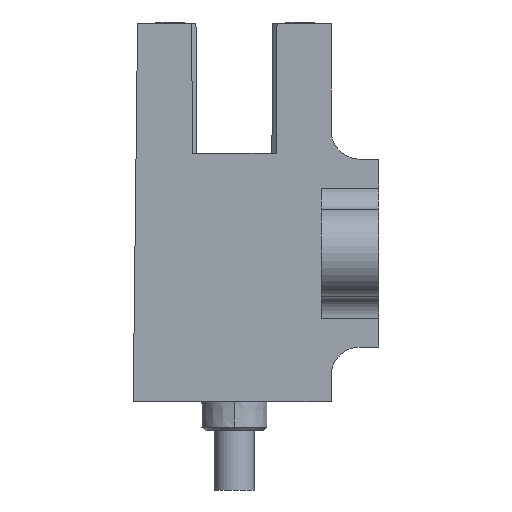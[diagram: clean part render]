
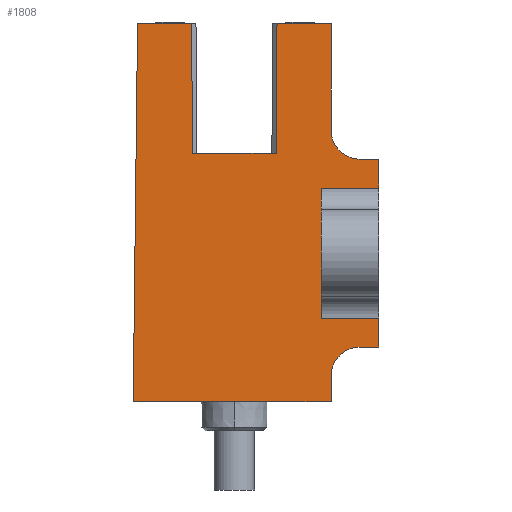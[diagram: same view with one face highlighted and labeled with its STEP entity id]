
A CAD part, front view. The second image highlights one B-rep face of the part: STEP entity #1808.
In plain terms, the highlighted planar face has unit normal (0, -1, 0).
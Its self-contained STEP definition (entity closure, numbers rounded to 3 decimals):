
#1=DIRECTION('',(0.006,0.,-1.));
#2=VECTOR('',#1,9.);
#3=CARTESIAN_POINT('',(-2.955,-3.175,26.2));
#4=LINE('',#3,#2);
#5=DIRECTION('',(1.,0.,0.));
#6=VECTOR('',#5,5.8);
#7=CARTESIAN_POINT('',(-2.9,-3.175,17.2));
#8=LINE('',#7,#6);
#9=DIRECTION('',(0.006,0.,1.));
#10=VECTOR('',#9,9.);
#11=CARTESIAN_POINT('',(2.9,-3.175,17.2));
#12=LINE('',#11,#10);
#13=CARTESIAN_POINT('',(8.7,-3.175,18.8));
#14=DIRECTION('',(0.,-1.,0.));
#15=DIRECTION('',(-1.,0.,0.));
#16=AXIS2_PLACEMENT_3D('',#13,#14,#15);
#18=DIRECTION('',(0.,0.,-1.));
#19=VECTOR('',#18,9.);
#20=CARTESIAN_POINT('',(6.,-3.175,14.8));
#21=LINE('',#20,#19);
#22=CARTESIAN_POINT('',(8.7,-3.175,1.8));
#23=DIRECTION('',(0.,-1.,0.));
#24=DIRECTION('',(0.,0.,1.));
#25=AXIS2_PLACEMENT_3D('',#22,#23,#24);
#27=DIRECTION('',(0.011,0.,1.));
#28=VECTOR('',#27,26.202);
#29=CARTESIAN_POINT('',(-7.,-3.175,0.));
#30=LINE('',#29,#28);
#47=DIRECTION('',(-1.,0.,0.));
#48=VECTOR('',#47,3.745);
#49=CARTESIAN_POINT('',(-2.955,-3.175,26.2));
#50=LINE('',#49,#48);
#157=DIRECTION('',(1.,0.,0.));
#158=VECTOR('',#157,13.7);
#159=CARTESIAN_POINT('',(-7.,-3.175,0.));
#160=LINE('',#159,#158);
#189=DIRECTION('',(0.,0.,1.));
#190=VECTOR('',#189,1.8);
#191=CARTESIAN_POINT('',(6.7,-3.175,0.));
#192=LINE('',#191,#190);
#201=DIRECTION('',(1.,0.,0.));
#202=VECTOR('',#201,1.3);
#203=CARTESIAN_POINT('',(8.7,-3.175,3.8));
#204=LINE('',#203,#202);
#237=DIRECTION('',(0.,0.,1.));
#238=VECTOR('',#237,2.);
#239=CARTESIAN_POINT('',(10.,-3.175,3.8));
#240=LINE('',#239,#238);
#269=DIRECTION('',(0.,0.,1.));
#270=VECTOR('',#269,2.);
#271=CARTESIAN_POINT('',(10.,-3.175,14.8));
#272=LINE('',#271,#270);
#457=DIRECTION('',(-1.,0.,0.));
#458=VECTOR('',#457,4.);
#459=CARTESIAN_POINT('',(10.,-3.175,5.8));
#460=LINE('',#459,#458);
#529=DIRECTION('',(1.,0.,0.));
#530=VECTOR('',#529,4.);
#531=CARTESIAN_POINT('',(6.,-3.175,14.8));
#532=LINE('',#531,#530);
#565=DIRECTION('',(-1.,0.,0.));
#566=VECTOR('',#565,1.3);
#567=CARTESIAN_POINT('',(10.,-3.175,16.8));
#568=LINE('',#567,#566);
#577=DIRECTION('',(0.,0.,1.));
#578=VECTOR('',#577,7.4);
#579=CARTESIAN_POINT('',(6.7,-3.175,18.8));
#580=LINE('',#579,#578);
#589=DIRECTION('',(-1.,0.,0.));
#590=VECTOR('',#589,3.745);
#591=CARTESIAN_POINT('',(6.7,-3.175,26.2));
#592=LINE('',#591,#590);
#1333=CARTESIAN_POINT('',(-2.955,-3.175,26.2));
#1334=CARTESIAN_POINT('',(-2.9,-3.175,17.2));
#1335=VERTEX_POINT('',#1333);
#1336=VERTEX_POINT('',#1334);
#1337=CARTESIAN_POINT('',(2.9,-3.175,17.2));
#1338=VERTEX_POINT('',#1337);
#1339=CARTESIAN_POINT('',(2.955,-3.175,26.2));
#1340=VERTEX_POINT('',#1339);
#1341=CARTESIAN_POINT('',(6.7,-3.175,26.2));
#1342=VERTEX_POINT('',#1341);
#1343=CARTESIAN_POINT('',(6.7,-3.175,18.8));
#1344=VERTEX_POINT('',#1343);
#1345=CARTESIAN_POINT('',(8.7,-3.175,16.8));
#1346=VERTEX_POINT('',#1345);
#1347=CARTESIAN_POINT('',(10.,-3.175,16.8));
#1348=VERTEX_POINT('',#1347);
#1349=CARTESIAN_POINT('',(10.,-3.175,14.8));
#1350=VERTEX_POINT('',#1349);
#1351=CARTESIAN_POINT('',(6.,-3.175,14.8));
#1352=VERTEX_POINT('',#1351);
#1353=CARTESIAN_POINT('',(6.,-3.175,5.8));
#1354=VERTEX_POINT('',#1353);
#1355=CARTESIAN_POINT('',(10.,-3.175,5.8));
#1356=VERTEX_POINT('',#1355);
#1357=CARTESIAN_POINT('',(10.,-3.175,3.8));
#1358=VERTEX_POINT('',#1357);
#1359=CARTESIAN_POINT('',(8.7,-3.175,3.8));
#1360=VERTEX_POINT('',#1359);
#1361=CARTESIAN_POINT('',(6.7,-3.175,1.8));
#1362=VERTEX_POINT('',#1361);
#1363=CARTESIAN_POINT('',(6.7,-3.175,0.));
#1364=VERTEX_POINT('',#1363);
#1365=CARTESIAN_POINT('',(-7.,-3.175,0.));
#1366=VERTEX_POINT('',#1365);
#1367=CARTESIAN_POINT('',(-6.7,-3.175,26.2));
#1368=VERTEX_POINT('',#1367);
#1765=CARTESIAN_POINT('',(0.,-3.175,0.));
#1766=DIRECTION('',(0.,1.,0.));
#1767=DIRECTION('',(1.,0.,0.));
#1768=AXIS2_PLACEMENT_3D('',#1765,#1766,#1767);
#1769=PLANE('',#1768);
#1771=ORIENTED_EDGE('',*,*,#1770,.T.);
#1773=ORIENTED_EDGE('',*,*,#1772,.T.);
#1775=ORIENTED_EDGE('',*,*,#1774,.T.);
#1777=ORIENTED_EDGE('',*,*,#1776,.F.);
#1779=ORIENTED_EDGE('',*,*,#1778,.F.);
#1781=ORIENTED_EDGE('',*,*,#1780,.T.);
#1783=ORIENTED_EDGE('',*,*,#1782,.F.);
#1785=ORIENTED_EDGE('',*,*,#1784,.F.);
#1787=ORIENTED_EDGE('',*,*,#1786,.F.);
#1789=ORIENTED_EDGE('',*,*,#1788,.T.);
#1791=ORIENTED_EDGE('',*,*,#1790,.F.);
#1793=ORIENTED_EDGE('',*,*,#1792,.F.);
#1795=ORIENTED_EDGE('',*,*,#1794,.F.);
#1797=ORIENTED_EDGE('',*,*,#1796,.T.);
#1799=ORIENTED_EDGE('',*,*,#1798,.F.);
#1801=ORIENTED_EDGE('',*,*,#1800,.F.);
#1803=ORIENTED_EDGE('',*,*,#1802,.T.);
#1805=ORIENTED_EDGE('',*,*,#1804,.F.);
#1806=EDGE_LOOP('',(#1771,#1773,#1775,#1777,#1779,#1781,#1783,#1785,#1787,#1789,
#1791,#1793,#1795,#1797,#1799,#1801,#1803,#1805));
#1807=FACE_OUTER_BOUND('',#1806,.F.);
#1808=ADVANCED_FACE('',(#1807),#1769,.F.);
#17=CIRCLE('',#16,2.);
#26=CIRCLE('',#25,2.);
#1770=EDGE_CURVE('',#1335,#1336,#4,.T.);
#1772=EDGE_CURVE('',#1336,#1338,#8,.T.);
#1774=EDGE_CURVE('',#1338,#1340,#12,.T.);
#1776=EDGE_CURVE('',#1342,#1340,#592,.T.);
#1778=EDGE_CURVE('',#1344,#1342,#580,.T.);
#1780=EDGE_CURVE('',#1344,#1346,#17,.T.);
#1782=EDGE_CURVE('',#1348,#1346,#568,.T.);
#1784=EDGE_CURVE('',#1350,#1348,#272,.T.);
#1786=EDGE_CURVE('',#1352,#1350,#532,.T.);
#1788=EDGE_CURVE('',#1352,#1354,#21,.T.);
#1790=EDGE_CURVE('',#1356,#1354,#460,.T.);
#1792=EDGE_CURVE('',#1358,#1356,#240,.T.);
#1794=EDGE_CURVE('',#1360,#1358,#204,.T.);
#1796=EDGE_CURVE('',#1360,#1362,#26,.T.);
#1798=EDGE_CURVE('',#1364,#1362,#192,.T.);
#1800=EDGE_CURVE('',#1366,#1364,#160,.T.);
#1802=EDGE_CURVE('',#1366,#1368,#30,.T.);
#1804=EDGE_CURVE('',#1335,#1368,#50,.T.);
